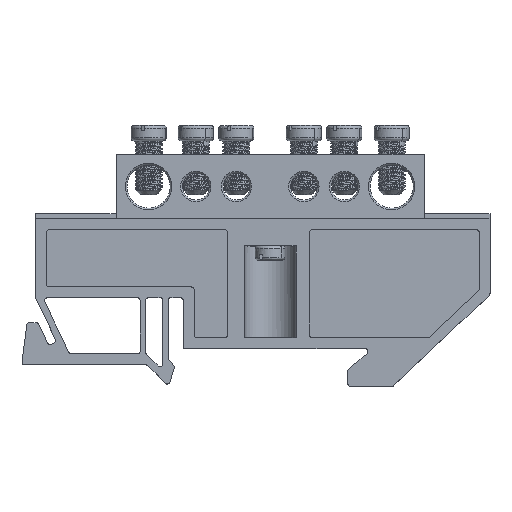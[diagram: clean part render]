
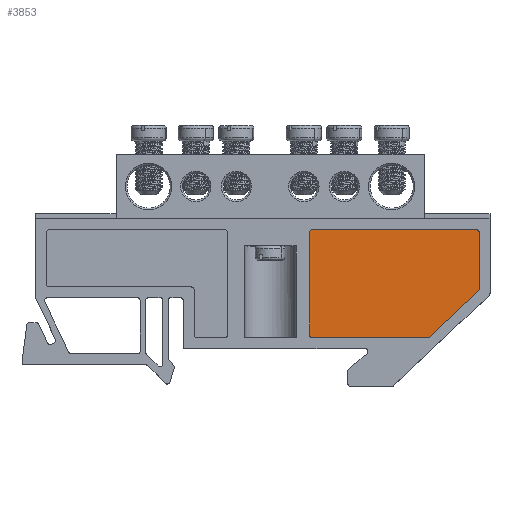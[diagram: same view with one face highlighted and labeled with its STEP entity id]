
A CAD part, top view. The second image highlights one B-rep face of the part: STEP entity #3853.
In plain terms, the highlighted planar face has unit normal (0, 0, 1).
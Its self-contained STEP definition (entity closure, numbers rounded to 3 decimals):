
#108 = AXIS2_PLACEMENT_3D ( 'NONE', #15167, #8066, #924 ) ;
#185 = EDGE_CURVE ( 'NONE', #2617, #10484, #1405, .T. ) ;
#311 = CARTESIAN_POINT ( 'NONE',  ( 50.7, -2., 3.5 ) ) ;
#438 = LINE ( 'NONE', #8841, #801 ) ;
#486 = ORIENTED_EDGE ( 'NONE', *, *, #9909, .T. ) ;
#801 = VECTOR ( 'NONE', #13565, 1000. ) ;
#924 = DIRECTION ( 'NONE',  ( -1., 0., 0. ) ) ;
#933 = CIRCLE ( 'NONE', #15279, 0.5 ) ;
#1162 = CIRCLE ( 'NONE', #108, 0.5 ) ;
#1405 = CIRCLE ( 'NONE', #7676, 0.5 ) ;
#1717 = CARTESIAN_POINT ( 'NONE',  ( 82.1, -12.922, 3.5 ) ) ;
#1906 = CARTESIAN_POINT ( 'NONE',  ( 50.7, -2.5, 3.5 ) ) ;
#2483 = CARTESIAN_POINT ( 'NONE',  ( 51.2, -2., 3.5 ) ) ;
#2587 = LINE ( 'NONE', #9338, #5015 ) ;
#2617 = VERTEX_POINT ( 'NONE', #15050 ) ;
#3643 = FACE_OUTER_BOUND ( 'NONE', #15084, .T. ) ;
#3675 = DIRECTION ( 'NONE',  ( 0., 0., 1. ) ) ;
#3853 = ADVANCED_FACE ( 'NONE', ( #3643 ), #11027, .F. ) ;
#4001 = CIRCLE ( 'NONE', #5746, 0.5 ) ;
#4128 = VECTOR ( 'NONE', #7437, 1000. ) ;
#4170 = CARTESIAN_POINT ( 'NONE',  ( 51.2, -21.5, 3.5 ) ) ;
#4264 = DIRECTION ( 'NONE',  ( 0., 0., 1. ) ) ;
#4528 = EDGE_CURVE ( 'NONE', #9527, #15104, #4001, .T. ) ;
#4778 = VERTEX_POINT ( 'NONE', #2483 ) ;
#4886 = CIRCLE ( 'NONE', #12781, 0.5 ) ;
#4965 = ORIENTED_EDGE ( 'NONE', *, *, #13363, .T. ) ;
#4969 = CARTESIAN_POINT ( 'NONE',  ( 82.1, -2.5, 3.5 ) ) ;
#5015 = VECTOR ( 'NONE', #10544, 1000. ) ;
#5269 = EDGE_CURVE ( 'NONE', #10484, #11620, #438, .T. ) ;
#5282 = LINE ( 'NONE', #13311, #11237 ) ;
#5359 = DIRECTION ( 'NONE',  ( -1., 0., 0. ) ) ;
#5375 = VERTEX_POINT ( 'NONE', #1906 ) ;
#5746 = AXIS2_PLACEMENT_3D ( 'NONE', #14100, #6984, #15263 ) ;
#5908 = VERTEX_POINT ( 'NONE', #1717 ) ;
#5941 = CARTESIAN_POINT ( 'NONE',  ( 51.2, -22., 3.5 ) ) ;
#6009 = VERTEX_POINT ( 'NONE', #13735 ) ;
#6304 = DIRECTION ( 'NONE',  ( -1., 0., 0. ) ) ;
#6383 = ORIENTED_EDGE ( 'NONE', *, *, #4528, .T. ) ;
#6397 = EDGE_CURVE ( 'NONE', #15104, #4778, #5282, .T. ) ;
#6718 = ORIENTED_EDGE ( 'NONE', *, *, #9075, .T. ) ;
#6807 = EDGE_CURVE ( 'NONE', #11620, #6009, #1162, .T. ) ;
#6934 = LINE ( 'NONE', #311, #4128 ) ;
#6984 = DIRECTION ( 'NONE',  ( 0., 0., 1. ) ) ;
#7437 = DIRECTION ( 'NONE',  ( 0., -1., 0. ) ) ;
#7676 = AXIS2_PLACEMENT_3D ( 'NONE', #4170, #12479, #5359 ) ;
#7771 = CARTESIAN_POINT ( 'NONE',  ( 82.1, -13.138, 3.5 ) ) ;
#7776 = EDGE_CURVE ( 'NONE', #5375, #2617, #6934, .T. ) ;
#8066 = DIRECTION ( 'NONE',  ( 0., 0., 1. ) ) ;
#8841 = CARTESIAN_POINT ( 'NONE',  ( 72.717, -22., 3.5 ) ) ;
#8947 = DIRECTION ( 'NONE',  ( 0.727, 0.687, 0. ) ) ;
#9075 = EDGE_CURVE ( 'NONE', #4778, #5375, #933, .T. ) ;
#9338 = CARTESIAN_POINT ( 'NONE',  ( 82.1, -2., 3.5 ) ) ;
#9527 = VERTEX_POINT ( 'NONE', #4969 ) ;
#9909 = EDGE_CURVE ( 'NONE', #5908, #9527, #2587, .T. ) ;
#10016 = ORIENTED_EDGE ( 'NONE', *, *, #6807, .T. ) ;
#10458 = LINE ( 'NONE', #7771, #13216 ) ;
#10484 = VERTEX_POINT ( 'NONE', #5941 ) ;
#10507 = VERTEX_POINT ( 'NONE', #10732 ) ;
#10544 = DIRECTION ( 'NONE',  ( 0., 1., 0. ) ) ;
#10732 = CARTESIAN_POINT ( 'NONE',  ( 81.943, -13.286, 3.5 ) ) ;
#10792 = CARTESIAN_POINT ( 'NONE',  ( 81.6, -12.922, 3.5 ) ) ;
#11027 = PLANE ( 'NONE',  #14579 ) ;
#11237 = VECTOR ( 'NONE', #12105, 1000. ) ;
#11371 = CARTESIAN_POINT ( 'NONE',  ( 51.2, -2.5, 3.5 ) ) ;
#11620 = VERTEX_POINT ( 'NONE', #12670 ) ;
#11980 = DIRECTION ( 'NONE',  ( -1., 0., 0. ) ) ;
#12105 = DIRECTION ( 'NONE',  ( -1., 0., 0. ) ) ;
#12479 = DIRECTION ( 'NONE',  ( 0., 0., 1. ) ) ;
#12577 = DIRECTION ( 'NONE',  ( -1., 0., 0. ) ) ;
#12670 = CARTESIAN_POINT ( 'NONE',  ( 72.518, -22., 3.5 ) ) ;
#12781 = AXIS2_PLACEMENT_3D ( 'NONE', #10792, #3675, #11980 ) ;
#12862 = ORIENTED_EDGE ( 'NONE', *, *, #6397, .T. ) ;
#13107 = CARTESIAN_POINT ( 'NONE',  ( 81.6, -2., 3.5 ) ) ;
#13216 = VECTOR ( 'NONE', #8947, 1000. ) ;
#13284 = ORIENTED_EDGE ( 'NONE', *, *, #7776, .T. ) ;
#13311 = CARTESIAN_POINT ( 'NONE',  ( 50.7, -2., 3.5 ) ) ;
#13358 = CARTESIAN_POINT ( 'NONE',  ( 0., 0., 3.5 ) ) ;
#13363 = EDGE_CURVE ( 'NONE', #10507, #5908, #4886, .T. ) ;
#13405 = DIRECTION ( 'NONE',  ( 0., 0., -1. ) ) ;
#13565 = DIRECTION ( 'NONE',  ( 1., 0., 0. ) ) ;
#13735 = CARTESIAN_POINT ( 'NONE',  ( 72.861, -21.864, 3.5 ) ) ;
#14100 = CARTESIAN_POINT ( 'NONE',  ( 81.6, -2.5, 3.5 ) ) ;
#14579 = AXIS2_PLACEMENT_3D ( 'NONE', #13358, #13405, #6304 ) ;
#14721 = EDGE_CURVE ( 'NONE', #6009, #10507, #10458, .T. ) ;
#15050 = CARTESIAN_POINT ( 'NONE',  ( 50.7, -21.5, 3.5 ) ) ;
#15084 = EDGE_LOOP ( 'NONE', ( #12862, #6718, #13284, #15087, #15225, #10016, #15131, #4965, #486, #6383 ) ) ;
#15087 = ORIENTED_EDGE ( 'NONE', *, *, #185, .T. ) ;
#15104 = VERTEX_POINT ( 'NONE', #13107 ) ;
#15131 = ORIENTED_EDGE ( 'NONE', *, *, #14721, .T. ) ;
#15167 = CARTESIAN_POINT ( 'NONE',  ( 72.518, -21.5, 3.5 ) ) ;
#15225 = ORIENTED_EDGE ( 'NONE', *, *, #5269, .T. ) ;
#15263 = DIRECTION ( 'NONE',  ( -1., 0., 0. ) ) ;
#15279 = AXIS2_PLACEMENT_3D ( 'NONE', #11371, #4264, #12577 ) ;
